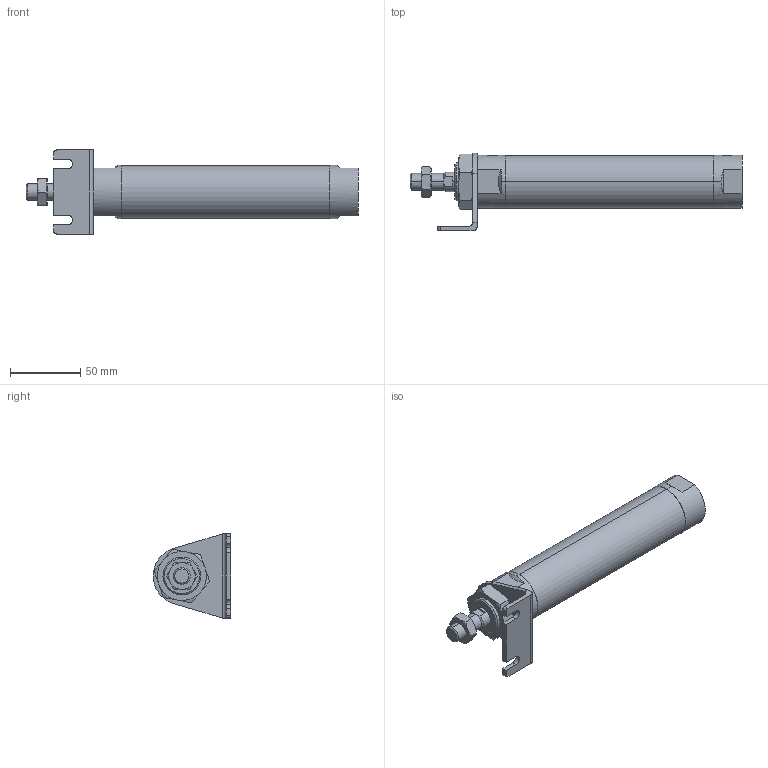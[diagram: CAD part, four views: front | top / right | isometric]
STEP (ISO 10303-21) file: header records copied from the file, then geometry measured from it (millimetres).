
FILE_DESCRIPTION (( 'STEP AP203' ), '1' );
FILE_NAME ('JGND2-32-100-L.STEP', '2016-08-04T02:52:12', ( '' ), ( '' ), 'SwSTEP 2.0', 'SolidWorks 2014', '' );
FILE_SCHEMA (( 'CONFIG_CONTROL_DESIGN' ));
Length unit declared in the file: millimetre
Products named in the file (5): JGND2-32-100-L; J#2-32-L; J#2-32-100(P)
Assembly tree (4 placements, depth 2):
  JGND2-32-100-L
    J#2-32-100(P)
    (unnamed)
    (unnamed)
    J#2-32-L
Bounding box: 237 x 55.5 x 60 mm (x, y, z)
Volume: 237279.5 mm3; surface area: 40122.5 mm2
Topology: 4 solids, 4 shells, 116 faces, 273 edges, 167 vertices
Faces by surface type: plane 47, cylinder 32, torus 24, cone 13
Entity records: 4285 total; most frequent: CARTESIAN_POINT 1166, DIRECTION 548, ORIENTED_EDGE 538, EDGE_CURVE 269, AXIS2_PLACEMENT_3D 219, VERTEX_POINT 167, EDGE_LOOP 128, FACE_OUTER_BOUND 116
